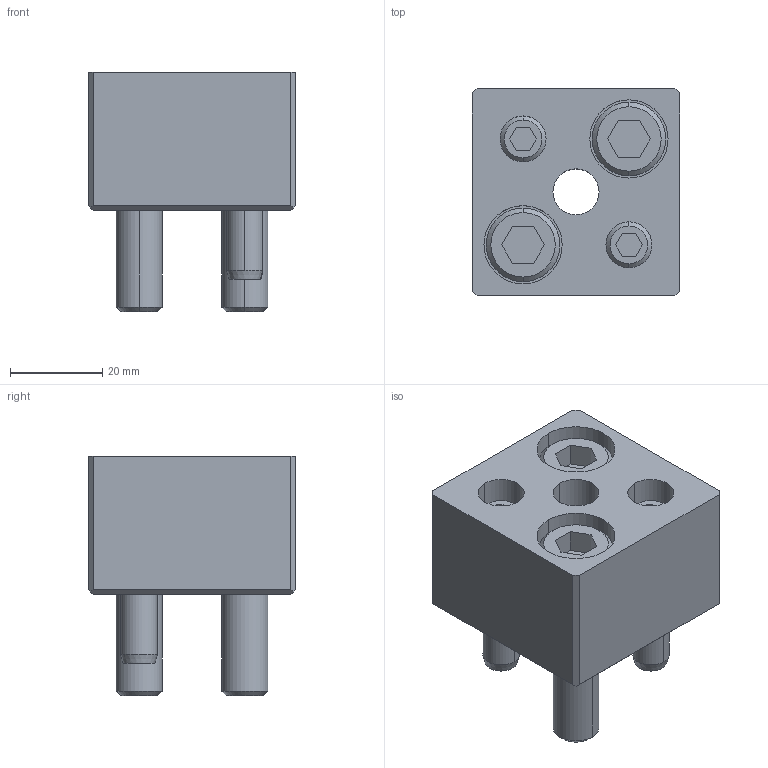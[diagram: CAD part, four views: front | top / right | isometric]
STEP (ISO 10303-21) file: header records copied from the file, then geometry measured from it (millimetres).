
FILE_DESCRIPTION(/* description */ (''),/* implementation_level */ '2;1');
FILE_NAME(/* name */ '3d_asfr10_03224_r00.stp',/* time_stamp */ '2011-01-10T14:17:35+09:00',/* author */ ('MISUMI'),/* organization */ (''),/* preprocessor_version */ 'ST-DEVELOPER v11',/* originating_system */ 'UGS - NX 5.0',/* authorisation */ '');
FILE_SCHEMA (('CONFIG_CONTROL_DESIGN'));
Length unit declared in the file: millimetre
Products named in the file (1): 3d_asfr10_03224_r00
Bounding box: 45 x 45 x 52 mm (x, y, z)
Volume: 58341 mm3; surface area: 21327.6 mm2
Topology: 7 solids, 7 shells, 139 faces, 310 edges, 199 vertices
Faces by surface type: plane 68, cylinder 45, cone 26
Entity records: 3984 total; most frequent: DIRECTION 700, CARTESIAN_POINT 696, ORIENTED_EDGE 620, EDGE_CURVE 310, AXIS2_PLACEMENT_3D 257, VERTEX_POINT 199, LINE 186, VECTOR 186
